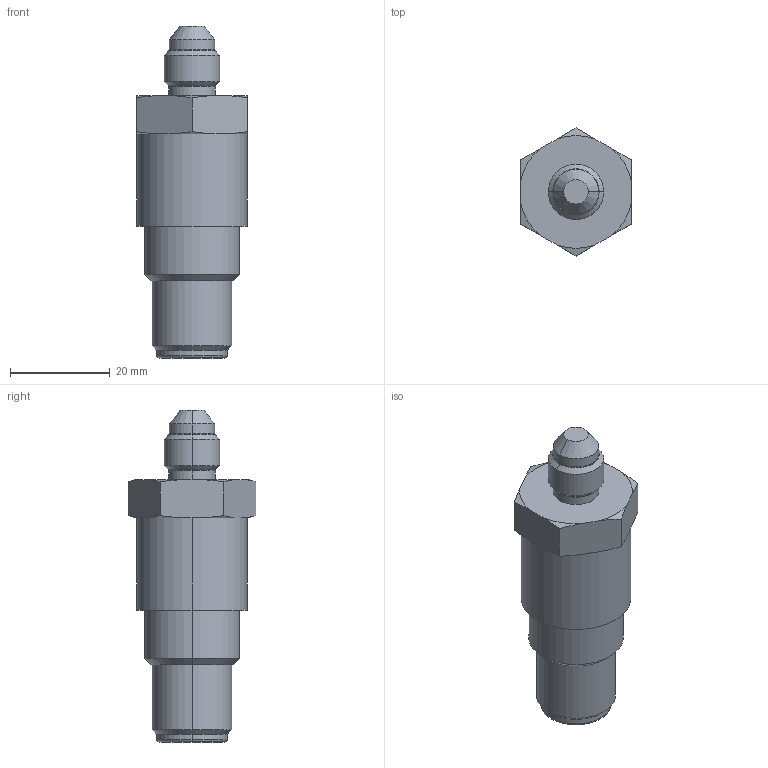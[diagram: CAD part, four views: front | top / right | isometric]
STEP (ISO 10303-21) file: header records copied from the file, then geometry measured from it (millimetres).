
FILE_DESCRIPTION (( 'STEP AP214' ), '1' );
FILE_NAME ('P12M-TYPE.STEP', '2008-01-14T13:19:51', ( 'Authorized User' ), ( 'Precision Sensors' ), 'SwSTEP 2.0', 'SolidWorks 2006303', '' );
FILE_SCHEMA (( 'AUTOMOTIVE_DESIGN' ));
Length unit declared in the file: inch
Products named in the file (1): P12M-TYPE
Bounding box: 22.23 x 25.66 x 66.57 mm (x, y, z)
Volume: 17460.5 mm3; surface area: 4463.7 mm2
Topology: 1 solids, 1 shells, 54 faces, 122 edges, 74 vertices
Faces by surface type: cone 22, cylinder 14, plane 12, torus 6
Entity records: 1557 total; most frequent: CARTESIAN_POINT 323, DIRECTION 264, ORIENTED_EDGE 244, EDGE_CURVE 122, AXIS2_PLACEMENT_3D 111, VERTEX_POINT 74, EDGE_LOOP 58, CIRCLE 56
